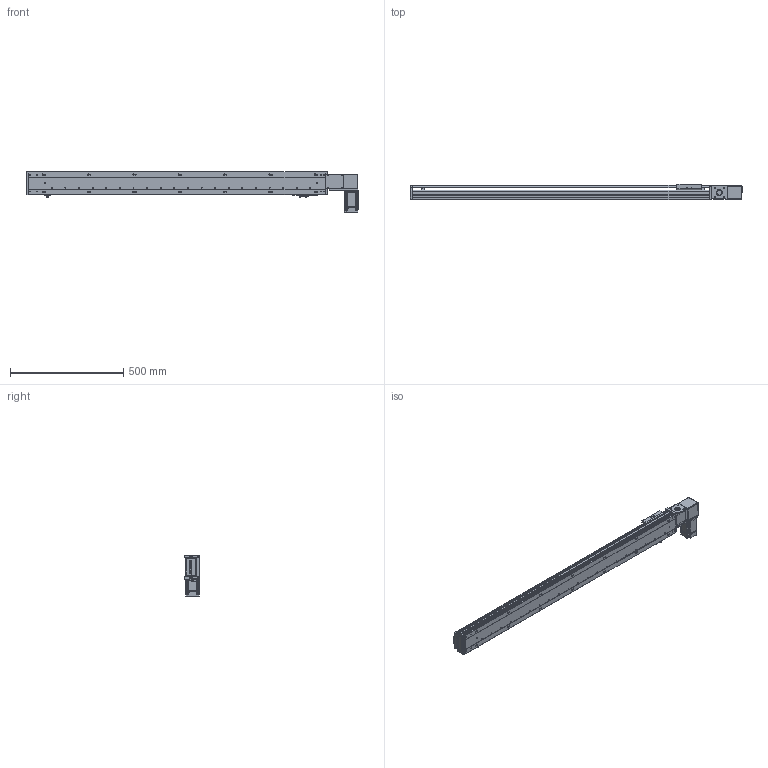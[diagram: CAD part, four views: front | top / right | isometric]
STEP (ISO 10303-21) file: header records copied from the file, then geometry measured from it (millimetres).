
FILE_DESCRIPTION (( 'STEP AP203' ), '1' );
FILE_NAME ('RY100-T-300-LK.SLDASM_1100.step', '2024-04-25T05:37:39', ( '盈信电脑' ), ( '东莞市道滘镇水果街19号' ), 'SwSTEP 2.0', 'SolidWorks 2016', '' );
FILE_SCHEMA (( 'CONFIG_CONTROL_DESIGN' ));
Length unit declared in the file: millimetre
Products named in the file (13): RY100綴裔啣; RY100-T-300-LK.SLDASM_1100; 覜茼ん672; RY100-T翋肮祭謫裔啣2; RY100-T肮祭謫翋盓傅釱; 滅袉蝶18-10; 1; RY100-T-300-RK倰第菁釱_1100; RY100-T-300-RK倰第奻裔_1100; RY100-T左右折电机安装板; RY100俋离覜茼え; RY80-T肮祭謫俋欶; RY100-T肮祭謫臏賑輸
Assembly tree (16 placements, depth 2):
  RY100-T-300-LK.SLDASM_1100
    RY100-T-300-RK倰第菁釱_1100
    RY100-T-300-RK倰第奻裔_1100
    RY100-T肮祭謫臏賑輸
    RY100綴裔啣
    覜茼ん672  x3
    RY100俋离覜茼え
    RY100-T肮祭謫翋盓傅釱
    滅袉蝶18-10  x2
    RY100-T翋肮祭謫裔啣2  x2
    RY80-T肮祭謫俋欶
    RY100-T左右折电机安装板
    1
Bounding box: 1464 x 66 x 182.5 mm (x, y, z)
Volume: 2773363.3 mm3; surface area: 1142555.2 mm2
Topology: 16 solids, 16 shells, 2152 faces, 6003 edges, 3901 vertices
Faces by surface type: plane 1174, cylinder 769, cone 131, bspline 78
Entity records: 68629 total; most frequent: CARTESIAN_POINT 16681, ORIENTED_EDGE 10742, DIRECTION 10187, EDGE_CURVE 5371, VERTEX_POINT 3537, LINE 3487, VECTOR 3487, AXIS2_PLACEMENT_3D 3350
